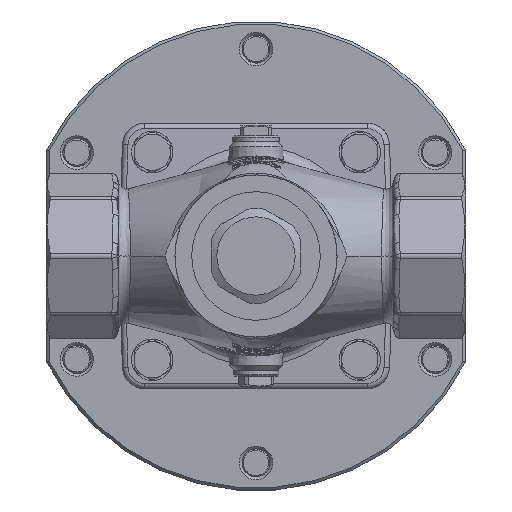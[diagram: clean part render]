
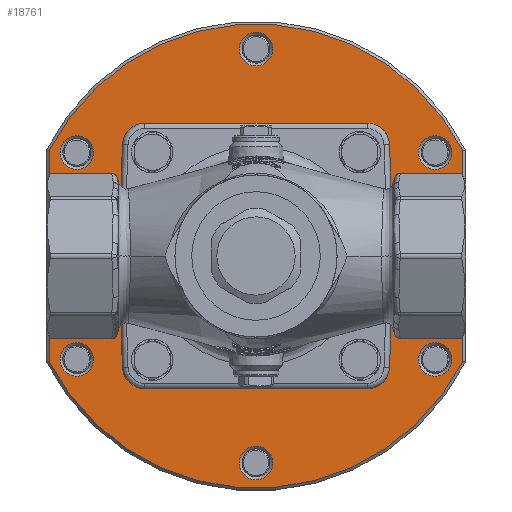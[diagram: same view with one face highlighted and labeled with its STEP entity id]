
A CAD part, front view. The second image highlights one B-rep face of the part: STEP entity #18761.
In plain terms, the highlighted planar face has unit normal (0, -1, 0).
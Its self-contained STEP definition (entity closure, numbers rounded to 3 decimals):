
#2856=LINE('',#50859,#3707);
#2857=LINE('',#50862,#3708);
#2858=LINE('',#50866,#3709);
#2859=LINE('',#50868,#3710);
#2860=LINE('',#50872,#3711);
#2861=LINE('',#50875,#3712);
#3707=VECTOR('',#22145,75.18);
#3708=VECTOR('',#22148,75.18);
#3709=VECTOR('',#22151,79.);
#3710=VECTOR('',#22152,79.);
#3711=VECTOR('',#22155,79.);
#3712=VECTOR('',#22158,79.);
#4676=FACE_BOUND('',#5961,.T.);
#4677=FACE_BOUND('',#5962,.T.);
#4678=FACE_BOUND('',#5963,.T.);
#4679=FACE_BOUND('',#5964,.T.);
#4680=FACE_BOUND('',#5965,.T.);
#4681=FACE_BOUND('',#5966,.T.);
#4682=FACE_BOUND('',#5967,.T.);
#4839=FACE_OUTER_BOUND('',#5960,.T.);
#5960=EDGE_LOOP('',(#13162,#13163,#13164,#13165));
#5961=EDGE_LOOP('',(#13166,#13167,#13168,#13169,#13170,#13171,#13172,#13173));
#5962=EDGE_LOOP('',(#13174));
#5963=EDGE_LOOP('',(#13175));
#5964=EDGE_LOOP('',(#13176));
#5965=EDGE_LOOP('',(#13177));
#5966=EDGE_LOOP('',(#13178));
#5967=EDGE_LOOP('',(#13179));
#7065=CIRCLE('',#19893,8.);
#7151=CIRCLE('',#20009,83.);
#7153=CIRCLE('',#20012,83.);
#7154=CIRCLE('',#20013,8.);
#7155=CIRCLE('',#20014,8.);
#7156=CIRCLE('',#20015,8.);
#7157=CIRCLE('',#20016,6.);
#7158=CIRCLE('',#20017,6.);
#7159=CIRCLE('',#20018,6.);
#7160=CIRCLE('',#20019,6.);
#7161=CIRCLE('',#20020,6.);
#7162=CIRCLE('',#20021,6.);
#8016=VERTEX_POINT('',#39299);
#8017=VERTEX_POINT('',#39300);
#8195=VERTEX_POINT('',#50852);
#8196=VERTEX_POINT('',#50854);
#8197=VERTEX_POINT('',#50858);
#8198=VERTEX_POINT('',#50860);
#8199=VERTEX_POINT('',#50863);
#8200=VERTEX_POINT('',#50864);
#8201=VERTEX_POINT('',#50867);
#8202=VERTEX_POINT('',#50869);
#8203=VERTEX_POINT('',#50871);
#8204=VERTEX_POINT('',#50873);
#8205=VERTEX_POINT('',#50876);
#8206=VERTEX_POINT('',#50878);
#8207=VERTEX_POINT('',#50880);
#8208=VERTEX_POINT('',#50882);
#8209=VERTEX_POINT('',#50884);
#8210=VERTEX_POINT('',#50886);
#9897=EDGE_CURVE('',#8016,#8017,#7065,.T.);
#10119=EDGE_CURVE('',#8195,#8196,#7151,.T.);
#10121=EDGE_CURVE('',#8197,#8195,#2856,.T.);
#10122=EDGE_CURVE('',#8198,#8197,#7153,.T.);
#10123=EDGE_CURVE('',#8196,#8198,#2857,.T.);
#10124=EDGE_CURVE('',#8199,#8200,#7154,.T.);
#10125=EDGE_CURVE('',#8200,#8016,#2858,.T.);
#10126=EDGE_CURVE('',#8017,#8201,#2859,.T.);
#10127=EDGE_CURVE('',#8201,#8202,#7155,.T.);
#10128=EDGE_CURVE('',#8202,#8203,#2860,.T.);
#10129=EDGE_CURVE('',#8203,#8204,#7156,.T.);
#10130=EDGE_CURVE('',#8204,#8199,#2861,.T.);
#10131=EDGE_CURVE('',#8205,#8205,#7157,.T.);
#10132=EDGE_CURVE('',#8206,#8206,#7158,.T.);
#10133=EDGE_CURVE('',#8207,#8207,#7159,.T.);
#10134=EDGE_CURVE('',#8208,#8208,#7160,.T.);
#10135=EDGE_CURVE('',#8209,#8209,#7161,.T.);
#10136=EDGE_CURVE('',#8210,#8210,#7162,.T.);
#13162=ORIENTED_EDGE('',*,*,#10119,.F.);
#13163=ORIENTED_EDGE('',*,*,#10121,.F.);
#13164=ORIENTED_EDGE('',*,*,#10122,.F.);
#13165=ORIENTED_EDGE('',*,*,#10123,.F.);
#13166=ORIENTED_EDGE('',*,*,#10124,.T.);
#13167=ORIENTED_EDGE('',*,*,#10125,.T.);
#13168=ORIENTED_EDGE('',*,*,#9897,.T.);
#13169=ORIENTED_EDGE('',*,*,#10126,.T.);
#13170=ORIENTED_EDGE('',*,*,#10127,.T.);
#13171=ORIENTED_EDGE('',*,*,#10128,.T.);
#13172=ORIENTED_EDGE('',*,*,#10129,.T.);
#13173=ORIENTED_EDGE('',*,*,#10130,.T.);
#13174=ORIENTED_EDGE('',*,*,#10131,.F.);
#13175=ORIENTED_EDGE('',*,*,#10132,.F.);
#13176=ORIENTED_EDGE('',*,*,#10133,.F.);
#13177=ORIENTED_EDGE('',*,*,#10134,.F.);
#13178=ORIENTED_EDGE('',*,*,#10135,.F.);
#13179=ORIENTED_EDGE('',*,*,#10136,.F.);
#18271=PLANE('',#20011);
#18761=ADVANCED_FACE('',(#4839,#4676,#4677,#4678,#4679,#4680,#4681,#4682),
#18271,.T.);
#19893=AXIS2_PLACEMENT_3D('',#39301,#21861,#21862);
#20009=AXIS2_PLACEMENT_3D('',#50855,#22139,#22140);
#20011=AXIS2_PLACEMENT_3D('',#50857,#22143,#22144);
#20012=AXIS2_PLACEMENT_3D('',#50861,#22146,#22147);
#20013=AXIS2_PLACEMENT_3D('',#50865,#22149,#22150);
#20014=AXIS2_PLACEMENT_3D('',#50870,#22153,#22154);
#20015=AXIS2_PLACEMENT_3D('',#50874,#22156,#22157);
#20016=AXIS2_PLACEMENT_3D('',#50877,#22159,#22160);
#20017=AXIS2_PLACEMENT_3D('',#50879,#22161,#22162);
#20018=AXIS2_PLACEMENT_3D('',#50881,#22163,#22164);
#20019=AXIS2_PLACEMENT_3D('',#50883,#22165,#22166);
#20020=AXIS2_PLACEMENT_3D('',#50885,#22167,#22168);
#20021=AXIS2_PLACEMENT_3D('',#50887,#22169,#22170);
#21861=DIRECTION('center_axis',(0.,1.,0.));
#21862=DIRECTION('ref_axis',(1.,0.,0.));
#22139=DIRECTION('center_axis',(0.,1.,0.));
#22140=DIRECTION('ref_axis',(0.,0.,-1.));
#22143=DIRECTION('center_axis',(0.,-1.,0.));
#22144=DIRECTION('ref_axis',(-1.,0.,0.));
#22145=DIRECTION('',(0.,0.,1.));
#22146=DIRECTION('center_axis',(0.,1.,0.));
#22147=DIRECTION('ref_axis',(0.,0.,-1.));
#22148=DIRECTION('',(0.,0.,-1.));
#22149=DIRECTION('center_axis',(0.,1.,0.));
#22150=DIRECTION('ref_axis',(0.,0.,1.));
#22151=DIRECTION('',(1.,0.,0.));
#22152=DIRECTION('',(0.,0.,-1.));
#22153=DIRECTION('center_axis',(0.,1.,0.));
#22154=DIRECTION('ref_axis',(0.,0.,-1.));
#22155=DIRECTION('',(-1.,0.,0.));
#22156=DIRECTION('center_axis',(0.,1.,0.));
#22157=DIRECTION('ref_axis',(-1.,0.,0.));
#22158=DIRECTION('',(0.,0.,1.));
#22159=DIRECTION('center_axis',(0.,-1.,0.));
#22160=DIRECTION('ref_axis',(0.,0.,1.));
#22161=DIRECTION('center_axis',(0.,-1.,0.));
#22162=DIRECTION('ref_axis',(0.,0.,1.));
#22163=DIRECTION('center_axis',(0.,-1.,0.));
#22164=DIRECTION('ref_axis',(0.,0.,1.));
#22165=DIRECTION('center_axis',(0.,-1.,0.));
#22166=DIRECTION('ref_axis',(0.,0.,1.));
#22167=DIRECTION('center_axis',(0.,-1.,0.));
#22168=DIRECTION('ref_axis',(0.,0.,1.));
#22169=DIRECTION('center_axis',(0.,-1.,0.));
#22170=DIRECTION('ref_axis',(0.,0.,1.));
#39299=CARTESIAN_POINT('',(39.5,51.4,47.5));
#39300=CARTESIAN_POINT('',(47.5,51.4,39.5));
#39301=CARTESIAN_POINT('Origin',(39.5,51.4,39.5));
#50852=CARTESIAN_POINT('',(-74.,51.4,37.59));
#50854=CARTESIAN_POINT('',(74.,51.4,37.59));
#50855=CARTESIAN_POINT('Origin',(0.,51.4,0.));
#50857=CARTESIAN_POINT('Origin',(0.,51.4,57.75));
#50858=CARTESIAN_POINT('',(-74.,51.4,-37.59));
#50859=CARTESIAN_POINT('',(-74.,51.4,-37.59));
#50860=CARTESIAN_POINT('',(74.,51.4,-37.59));
#50861=CARTESIAN_POINT('Origin',(0.,51.4,0.));
#50862=CARTESIAN_POINT('',(74.,51.4,37.59));
#50863=CARTESIAN_POINT('',(-47.5,51.4,39.5));
#50864=CARTESIAN_POINT('',(-39.5,51.4,47.5));
#50865=CARTESIAN_POINT('Origin',(-39.5,51.4,39.5));
#50866=CARTESIAN_POINT('',(-39.5,51.4,47.5));
#50867=CARTESIAN_POINT('',(47.5,51.4,-39.5));
#50868=CARTESIAN_POINT('',(47.5,51.4,39.5));
#50869=CARTESIAN_POINT('',(39.5,51.4,-47.5));
#50870=CARTESIAN_POINT('Origin',(39.5,51.4,-39.5));
#50871=CARTESIAN_POINT('',(-39.5,51.4,-47.5));
#50872=CARTESIAN_POINT('',(39.5,51.4,-47.5));
#50873=CARTESIAN_POINT('',(-47.5,51.4,-39.5));
#50874=CARTESIAN_POINT('Origin',(-39.5,51.4,-39.5));
#50875=CARTESIAN_POINT('',(-47.5,51.4,-39.5));
#50876=CARTESIAN_POINT('',(0.,51.4,-80.));
#50877=CARTESIAN_POINT('Origin',(0.,51.4,-74.));
#50878=CARTESIAN_POINT('',(-64.086,51.4,-43.));
#50879=CARTESIAN_POINT('Origin',(-64.086,51.4,-37.));
#50880=CARTESIAN_POINT('',(64.086,51.4,-43.));
#50881=CARTESIAN_POINT('Origin',(64.086,51.4,-37.));
#50882=CARTESIAN_POINT('',(64.086,51.4,31.));
#50883=CARTESIAN_POINT('Origin',(64.086,51.4,37.));
#50884=CARTESIAN_POINT('',(-64.086,51.4,31.));
#50885=CARTESIAN_POINT('Origin',(-64.086,51.4,37.));
#50886=CARTESIAN_POINT('',(0.,51.4,68.));
#50887=CARTESIAN_POINT('Origin',(0.,51.4,74.));
